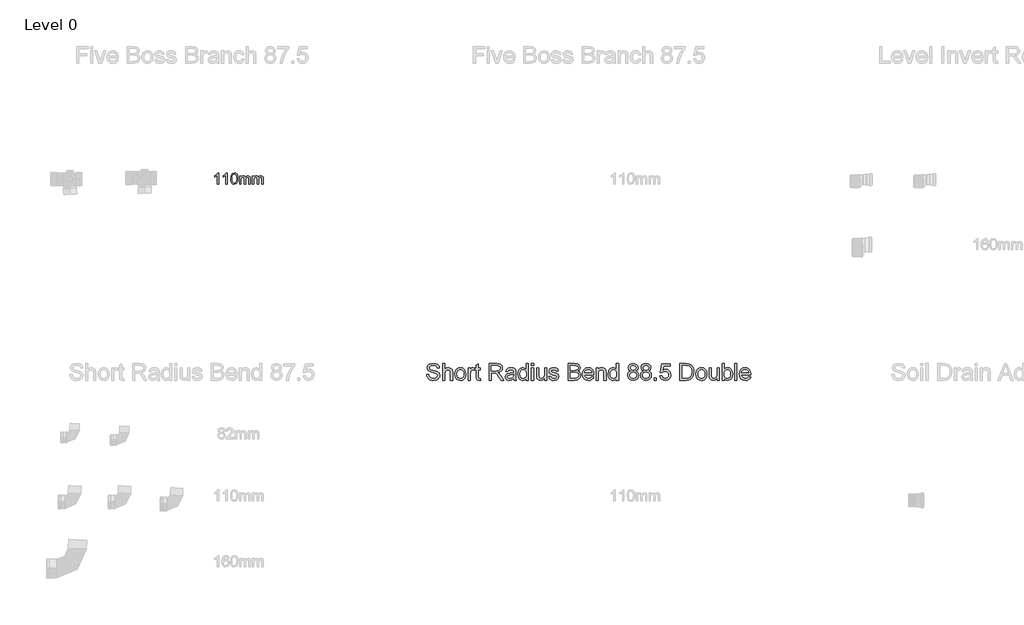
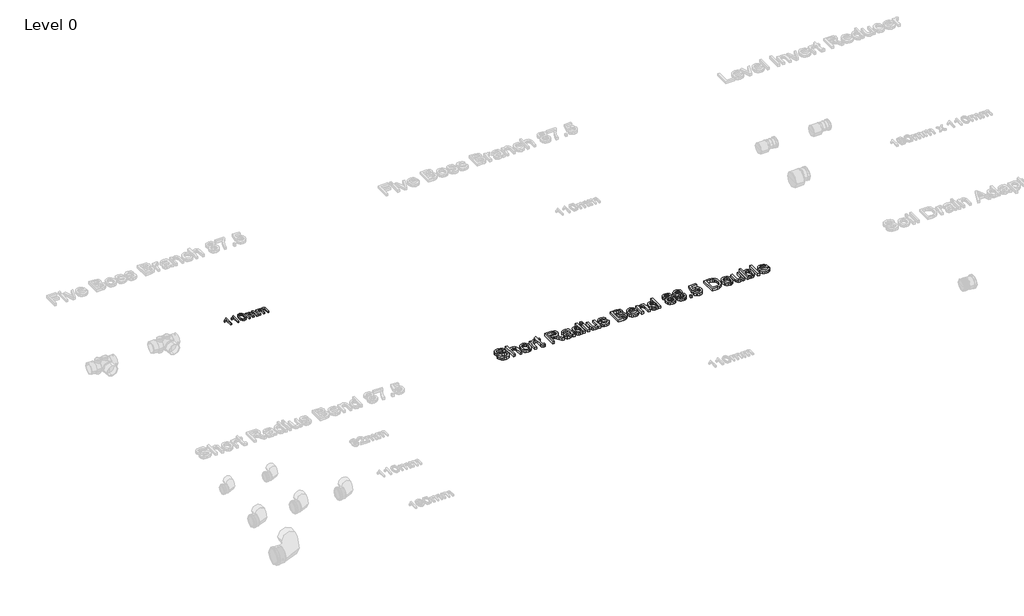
# One storey, part 16 of 23: 2 proxies.
"""IFC4 building model written with IfcOpenShell, lengths in millimetres."""

from ifc_helpers import new_model, si_unit, origin, origin_with_axes, place, context, project, spatial, polyline, outline, extrude, element, save

model = new_model("IFC4")

# Units and contexts
model_context = context("Model", 3, world=origin())
ifc_project = project(units=[si_unit("LENGTHUNIT", "METRE", prefix="MILLI")], contexts=[model_context])

# Site, building, storey
site = spatial("IfcSite", under=ifc_project)
building = spatial("IfcBuilding", under=site)
storey = spatial("IfcBuildingStorey", under=building, Name="Level 0", Elevation=0.0)

# Proxies
placement = place(None, origin())
element("IfcBuildingElementProxy", 1, Name="100mm Arial", ObjectType="100mm Arial", at=placement, inside=storey, context=model_context, shape_type="SweptSolid", body=[
    extrude(outline(polyline([(-3291.7293188, 2637.7167304), (-3304.0370111, 2637.7167304), (-3304.0370111, 2714.4474996), (-3315.6956649, 2706.1422111), (-3328.6523957, 2699.9282688), (-3328.6523957, 2711.5628842), (-3310.6115303, 2723.0773073), (-3299.6620111, 2736.1782688), (-3291.7293188, 2736.1782688), (-3291.7293188, 2637.7167304)])), origin_with_axes(), (0.0, 0.0, 1.0), 15.0),
    extrude(outline(polyline([(-3216.3447034, 2637.7167304), (-3228.6523957, 2637.7167304), (-3228.6523957, 2714.4474996), (-3240.3110495, 2706.1422111), (-3253.2677803, 2699.9282688), (-3253.2677803, 2711.5628842), (-3235.2269149, 2723.0773073), (-3224.2773957, 2736.1782688), (-3216.3447034, 2736.1782688), (-3216.3447034, 2637.7167304)])), origin_with_axes(), (0.0, 0.0, 1.0), 15.0),
    extrude(outline(polyline([(-3187.1139341, 2686.1542304), (-3183.4961457, 2714.4835573), (-3172.7509534, 2730.8176919), (-3154.8062418, 2736.1782688), (-3140.4312418, 2733.0051919), (-3130.5033572, 2723.8585573), (-3124.7341264, 2709.2912496), (-3122.4985495, 2686.1542304), (-3126.0802803, 2657.9450958), (-3136.7894149, 2641.5749035), (-3154.8062418, 2636.1782688), (-3167.5947034, 2638.5220188), (-3177.3062418, 2645.5532688), (-3184.6620111, 2662.2059131), (-3187.1139341, 2686.1542304)]), holes=[polyline([(-3174.8062418, 2686.1782688), (-3173.3639341, 2666.8182929), (-3169.0370111, 2655.613365), (-3162.5947034, 2650.2678121), (-3154.8062418, 2648.4859611), (-3147.0177803, 2650.2738217), (-3140.5754726, 2655.6374035), (-3136.2485495, 2666.848341), (-3134.8062418, 2686.1782688), (-3136.2004726, 2705.1025477), (-3140.3831649, 2716.394615), (-3146.8134534, 2722.0015861), (-3154.9504726, 2723.8705765), (-3162.6547995, 2722.2239419), (-3168.8447034, 2717.2840381), (-3173.3158572, 2705.2888458), (-3174.8062418, 2686.1782688)])]), origin_with_axes(), (0.0, 0.0, 1.0), 15.0),
    extrude(outline(polyline([(-3108.6523957, 2637.7167304), (-3108.6523957, 2710.0244227), (-3096.3447034, 2710.0244227), (-3096.3447034, 2698.1253842), (-3087.8831649, 2707.8729804), (-3075.8398957, 2711.5628842), (-3063.5081649, 2707.800865), (-3056.7293188, 2697.2599996), (-3047.1259534, 2707.9871631), (-3034.9985495, 2711.5628842), (-3025.7467466, 2710.0755044), (-3018.9047995, 2705.613365), (-3014.6770351, 2698.0562736), (-3013.2677803, 2687.2840381), (-3013.2677803, 2637.7167304), (-3025.5754726, 2637.7167304), (-3025.5754726, 2681.9955765), (-3026.7172995, 2692.2720188), (-3030.8519149, 2697.332115), (-3037.8831649, 2699.2551919), (-3049.9865303, 2694.3273073), (-3054.8062418, 2678.5340381), (-3054.8062418, 2637.7167304), (-3067.1139341, 2637.7167304), (-3067.1139341, 2683.3657688), (-3069.9624918, 2695.2888458), (-3079.3014341, 2699.2551919), (-3088.4120111, 2696.6109611), (-3094.4697034, 2688.8705765), (-3096.3447034, 2674.1830765), (-3096.3447034, 2637.7167304), (-3108.6523957, 2637.7167304)])), origin_with_axes(), (0.0, 0.0, 1.0), 15.0),
    extrude(outline(polyline([(-2994.8062418, 2637.7167304), (-2994.8062418, 2710.0244227), (-2982.4985495, 2710.0244227), (-2982.4985495, 2698.1253842), (-2974.0370111, 2707.8729804), (-2961.9937418, 2711.5628842), (-2949.6620111, 2707.800865), (-2942.8831649, 2697.2599996), (-2933.2797995, 2707.9871631), (-2921.1523957, 2711.5628842), (-2911.9005928, 2710.0755044), (-2905.0586457, 2705.613365), (-2900.8308813, 2698.0562736), (-2899.4216264, 2687.2840381), (-2899.4216264, 2637.7167304), (-2911.7293188, 2637.7167304), (-2911.7293188, 2681.9955765), (-2912.8711457, 2692.2720188), (-2917.0057611, 2697.332115), (-2924.0370111, 2699.2551919), (-2936.1403764, 2694.3273073), (-2940.960088, 2678.5340381), (-2940.960088, 2637.7167304), (-2953.2677803, 2637.7167304), (-2953.2677803, 2683.3657688), (-2956.116338, 2695.2888458), (-2965.4552803, 2699.2551919), (-2974.5658572, 2696.6109611), (-2980.6235495, 2688.8705765), (-2982.4985495, 2674.1830765), (-2982.4985495, 2637.7167304), (-2994.8062418, 2637.7167304)])), origin_with_axes(), (0.0, 0.0, 1.0), 15.0),
])
element("IfcBuildingElementProxy", 2, Name="150mm Arial", ObjectType="150mm Arial", at=placement, inside=storey, context=model_context, shape_type="SweptSolid", body=[
    extrude(outline(polyline([(-1457.5279897, 955.9837527), (-1439.0664512, 955.9837527), (-1433.116932, 937.5041854), (-1418.585682, 925.8214931), (-1396.4462589, 921.3683681), (-1377.1553935, 924.7397623), (-1364.6974608, 934.0065892), (-1360.6049127, 946.3924065), (-1363.6698166, 957.9128392), (-1376.2178935, 966.2962527), (-1403.0989031, 973.3455315), (-1432.0352012, 982.4500988), (-1447.7383262, 996.1880796), (-1452.912605, 1014.541445), (-1451.3125449, 1025.3542455), (-1446.5123647, 1035.4368777), (-1438.6382661, 1043.9825508), (-1427.8164512, 1050.1844738), (-1400.4486627, 1055.2145219), (-1371.241932, 1049.9500988), (-1360.0460185, 1043.4506998), (-1351.7707781, 1034.4813488), (-1346.5333983, 1023.6009402), (-1344.4510666, 1011.3683681), (-1362.912605, 1011.3683681), (-1366.3020281, 1022.3839931), (-1373.3693358, 1030.3347142), (-1384.4120041, 1035.1484161), (-1399.7275089, 1036.7529835), (-1415.4035906, 1035.166445), (-1426.1577973, 1030.4068296), (-1432.3777493, 1023.4026229), (-1434.4510666, 1015.0823104), (-1432.9817156, 1007.9879594), (-1428.5736627, 1002.2818296), (-1398.429432, 991.9693296), (-1365.7611627, 982.7025027), (-1355.2368238, 976.0047863), (-1347.8945762, 967.7385604), (-1342.1433743, 946.8611565), (-1343.7975209, 935.4804474), (-1348.7599608, 924.77582), (-1356.8278695, 915.5630796), (-1367.7984223, 908.6580315), (-1395.725105, 902.9068296), (-1413.8125449, 904.4573104), (-1428.6998647, 909.1087527), (-1440.5583382, 916.8791854), (-1449.5592397, 927.7866373), (-1455.3374848, 941.0738969), (-1457.5279897, 955.9837527)])), origin_with_axes(), (0.0, 0.0, 1.0), 25.0),
    extrude(outline(polyline([(-1316.7587589, 905.2145219), (-1316.7587589, 1052.9068296), (-1298.2972204, 1052.9068296), (-1298.2972204, 998.603945), (-1283.9011868, 1011.6388008), (-1266.1698166, 1015.9837527), (-1245.4366435, 1011.2421661), (-1232.8525089, 998.135195), (-1229.0664512, 973.8683681), (-1229.0664512, 905.2145219), (-1247.5279897, 905.2145219), (-1247.5279897, 971.9573104), (-1248.9973406, 983.5138008), (-1253.4053935, 991.4284642), (-1260.5087589, 995.9987767), (-1270.0640473, 997.5222142), (-1285.1902493, 993.4116373), (-1295.2864031, 982.2698104), (-1298.2972204, 962.8347142), (-1298.2972204, 905.2145219), (-1316.7587589, 905.2145219)])), origin_with_axes(), (0.0, 0.0, 1.0), 25.0),
    extrude(outline(polyline([(-1208.2972204, 959.4452911), (-1204.303831, 985.5961325), (-1192.3236627, 1003.9765411), (-1177.52198, 1012.9819498), (-1159.7996243, 1015.9837527), (-1140.405093, 1012.3284041), (-1124.913807, 1001.3623585), (-1114.7590594, 983.9510003), (-1111.3741435, 960.9597142), (-1112.8705377, 942.3088729), (-1117.3597204, 928.1111565), (-1124.7109824, 917.4786445), (-1134.7936147, 909.5234161), (-1146.7692757, 904.5609762), (-1159.7996243, 902.9068296), (-1179.4285305, 906.5486565), (-1194.9017877, 917.4741373), (-1204.9483622, 935.2505796), (-1208.2972204, 959.4452911)]), holes=[polyline([(-1189.835682, 959.4813488), (-1187.6992637, 942.7731157), (-1181.2900089, 930.86957), (-1171.6445762, 923.7436686), (-1159.7996243, 921.3683681), (-1148.0087589, 923.7571902), (-1138.381355, 930.9236565), (-1131.9721002, 942.9849546), (-1129.835682, 960.0582719), (-1131.9856219, 976.2797262), (-1138.4354416, 988.0210123), (-1148.0763671, 995.1469137), (-1159.7996243, 997.5222142), (-1171.6445762, 995.1559282), (-1181.2900089, 988.05707), (-1187.6992637, 976.1805676), (-1189.835682, 959.4813488)])]), origin_with_axes(), (0.0, 0.0, 1.0), 25.0),
    extrude(outline(polyline([(-1090.6049127, 905.2145219), (-1090.6049127, 1013.6760604), (-1074.4510666, 1013.6760604), (-1074.4510666, 997.6303873), (-1062.9847204, 1012.4140411), (-1051.4462589, 1015.9837527), (-1032.912605, 1010.2866373), (-1039.0784704, 993.7361565), (-1052.0592397, 997.5222142), (-1062.4979416, 993.8803873), (-1069.1505858, 983.7842335), (-1072.1433743, 962.2217335), (-1072.1433743, 905.2145219), (-1090.6049127, 905.2145219)])), origin_with_axes(), (0.0, 0.0, 1.0), 25.0),
    extrude(outline(polyline([(-982.1433743, 920.6111565), (-979.835682, 904.6736565), (-993.6457781, 902.9068296), (-1009.1145281, 905.9717335), (-1016.8308743, 914.0125988), (-1019.0664512, 934.9621181), (-1019.0664512, 995.2145219), (-1032.912605, 995.2145219), (-1032.912605, 1013.6760604), (-1019.0664512, 1013.6760604), (-1019.0664512, 1040.0342335), (-1000.6049127, 1050.8875988), (-1000.6049127, 1013.6760604), (-982.1433743, 1013.6760604), (-982.1433743, 995.2145219), (-1000.6049127, 995.2145219), (-1000.6049127, 935.5029835), (-999.631355, 925.9837527), (-996.476307, 922.6123585), (-990.1842397, 921.3683681), (-982.1433743, 920.6111565)])), origin_with_axes(), (0.0, 0.0, 1.0), 25.0),
    extrude(outline(polyline([(-903.6818358, 905.2145219), (-903.6818358, 1052.9068296), (-840.0400089, 1052.9068296), (-810.49073, 1048.9224546), (-801.3951772, 1043.4056277), (-794.3368839, 1034.8238969), (-789.8071363, 1024.1823705), (-788.2972204, 1012.4861565), (-790.7987228, 997.9368777), (-798.30323, 985.8755796), (-811.0361026, 977.0324306), (-829.2227012, 972.1375988), (-818.7299127, 964.2409642), (-803.7659704, 945.2385604), (-779.1385666, 905.2145219), (-800.5928935, 905.2145219), (-819.8116435, 935.8275027), (-833.693855, 956.0919258), (-843.4474608, 965.6652431), (-852.2275089, 969.1808681), (-862.9366435, 969.8299065), (-885.2202973, 969.8299065), (-885.2202973, 905.2145219), (-903.6818358, 905.2145219)]), holes=[polyline([(-885.2202973, 988.291445), (-843.898182, 988.291445), (-822.8224608, 990.9056277), (-810.851307, 999.2710123), (-806.7587589, 1011.8010604), (-808.7103815, 1020.806469), (-814.5652493, 1028.0630796), (-824.6388671, 1032.8497383), (-839.2467397, 1034.4452911), (-885.2202973, 1034.4452911), (-885.2202973, 988.291445)])]), origin_with_axes(), (0.0, 0.0, 1.0), 25.0),
    extrude(outline(polyline([(-689.0664512, 919.0606758), (-706.9690954, 906.5486565), (-726.7467397, 902.9068296), (-742.1749247, 905.0973344), (-753.5556339, 911.6688488), (-760.5733622, 921.6478152), (-762.912605, 934.0606758), (-759.3789512, 948.6640411), (-750.0940954, 959.2650027), (-737.1674127, 965.322695), (-721.193855, 968.0991373), (-689.1746243, 974.4452911), (-689.0664512, 978.5558681), (-690.3374848, 986.7950508), (-694.1505858, 992.1856758), (-702.67823, 996.1880796), (-714.5592397, 997.5222142), (-733.2371243, 993.9705315), (-742.1433743, 981.3683681), (-760.6049127, 983.6760604), (-752.6181339, 1001.7049065), (-736.5364031, 1012.2698104), (-712.179432, 1015.9837527), (-689.8056339, 1012.7025027), (-677.1674127, 1004.46332), (-671.506355, 991.9332719), (-670.6049127, 975.7794258), (-670.6049127, 952.8106758), (-669.6674127, 920.7373585), (-665.9895281, 905.2145219), (-684.4510666, 905.2145219), (-689.0664512, 919.0606758)]), holes=[polyline([(-689.0664512, 955.9837527), (-718.850105, 950.322695), (-734.7335185, 947.3299065), (-741.9270281, 942.4621181), (-744.4510666, 935.3587527), (-738.9522685, 925.3707719), (-722.8164512, 921.3683681), (-704.1385666, 925.7854354), (-692.0952973, 936.4765411), (-689.1746243, 950.7553873), (-689.0664512, 955.9837527)])]), origin_with_axes(), (0.0, 0.0, 1.0), 25.0),
    extrude(outline(polyline([(-578.2972204, 905.2145219), (-578.2972204, 922.6303873), (-590.5117637, 907.837719), (-607.3957781, 902.9068296), (-619.3308743, 904.6916854), (-630.256355, 910.0462527), (-639.5051531, 918.596433), (-646.4102012, 929.9681277), (-650.710081, 943.7016012), (-652.1433743, 959.3371181), (-646.8609223, 988.7241373), (-640.2623647, 1000.3797863), (-631.0315954, 1008.9525027), (-619.8672324, 1014.2259402), (-607.4678935, 1015.9837527), (-590.4486627, 1010.9537046), (-578.2972204, 997.8827911), (-578.2972204, 1052.9068296), (-559.835682, 1052.9068296), (-559.835682, 905.2145219), (-578.2972204, 905.2145219)]), holes=[polyline([(-633.6818358, 959.4092335), (-631.5995041, 942.7100147), (-625.3525089, 930.8335123), (-616.2749848, 923.7346541), (-605.7010666, 921.3683681), (-595.1316555, 923.6264811), (-586.2839993, 930.40082), (-580.2939151, 941.8175868), (-578.2972204, 958.0029835), (-580.3299728, 975.698296), (-586.42823, 987.9669258), (-595.5012469, 995.1333921), (-606.4582781, 997.5222142), (-617.1403695, 995.2280436), (-625.8933743, 988.3455315), (-631.7347204, 976.5231157), (-633.6818358, 959.4092335)])]), origin_with_axes(), (0.0, 0.0, 1.0), 25.0),
    extrude(outline(polyline([(-532.1433743, 1034.4452911), (-532.1433743, 1052.9068296), (-513.6818358, 1052.9068296), (-513.6818358, 1034.4452911), (-532.1433743, 1034.4452911)])), origin_with_axes(), (0.0, 0.0, 1.0), 25.0),
    extrude(outline(polyline([(-532.1433743, 905.2145219), (-532.1433743, 1013.6760604), (-513.6818358, 1013.6760604), (-513.6818358, 905.2145219), (-532.1433743, 905.2145219)])), origin_with_axes(), (0.0, 0.0, 1.0), 25.0),
    extrude(outline(polyline([(-416.7587589, 905.2145219), (-416.7587589, 923.8563488), (-431.2178935, 908.1442094), (-450.0760666, 902.9068296), (-467.4378454, 906.5847142), (-479.4089993, 915.8154835), (-484.9077973, 929.4092335), (-485.9895281, 946.572695), (-485.9895281, 1013.6760604), (-467.5279897, 1013.6760604), (-467.5279897, 955.2625988), (-466.4102012, 936.4404835), (-459.1085185, 925.3888008), (-445.3525089, 921.3683681), (-429.9378454, 925.478945), (-419.7515473, 936.6748585), (-416.7587589, 957.2457719), (-416.7587589, 1013.6760604), (-398.2972204, 1013.6760604), (-398.2972204, 905.2145219), (-416.7587589, 905.2145219)])), origin_with_axes(), (0.0, 0.0, 1.0), 25.0),
    extrude(outline(polyline([(-379.835682, 937.5222142), (-361.3741435, 939.8299065), (-358.4624848, 931.9332719), (-352.8284704, 926.1279835), (-333.2491435, 921.3683681), (-314.4270281, 925.7313488), (-308.2972204, 935.9717335), (-314.4630858, 944.2650027), (-333.4654897, 949.5294258), (-361.2659704, 958.5618777), (-373.3993839, 969.1087527), (-377.5279897, 984.0005796), (-374.210682, 997.7565892), (-365.1602012, 1008.2674065), (-353.4234223, 1013.7301469), (-337.5400089, 1015.9837527), (-315.0760666, 1012.3599546), (-300.7972204, 1002.5522623), (-294.4510666, 985.9837527), (-312.912605, 983.6760604), (-319.8537108, 993.8623585), (-336.0977012, 997.5222142), (-353.7659704, 994.0246181), (-359.0664512, 985.8755796), (-356.866932, 980.5029835), (-349.9799127, 976.4284642), (-334.0784704, 972.4981758), (-306.9811147, 963.8082719), (-294.39698, 953.9645219), (-289.835682, 937.9188488), (-295.1902493, 920.2505796), (-310.6409704, 907.43207), (-333.5015473, 902.9068296), (-352.116331, 905.08832), (-365.7010666, 911.6327911), (-374.7695762, 922.4681277), (-379.835682, 937.5222142)])), origin_with_axes(), (0.0, 0.0, 1.0), 25.0),
    extrude(outline(polyline([(-209.0664512, 905.2145219), (-209.0664512, 1052.9068296), (-152.7082781, 1052.9068296), (-125.1061147, 1048.5618777), (-115.8302733, 1043.049558), (-108.8080377, 1035.2025027), (-102.912605, 1016.3082719), (-107.8705377, 999.0546661), (-122.8525089, 985.9837527), (-112.3912709, 980.5210123), (-104.6614031, 972.2097142), (-99.8882661, 961.5997383), (-98.2972204, 949.2409642), (-102.6421723, 929.3912046), (-113.4053935, 915.2565892), (-129.4690954, 907.7565892), (-153.1409704, 905.2145219), (-209.0664512, 905.2145219)]), holes=[polyline([(-190.6049127, 923.6760604), (-152.7443358, 923.6760604), (-139.0424127, 924.3972142), (-127.4498647, 928.4176469), (-119.7695762, 936.6207719), (-116.7587589, 949.0606758), (-120.2924127, 963.4116373), (-131.74073, 971.9753392), (-154.5472204, 974.4452911), (-190.6049127, 974.4452911), (-190.6049127, 923.6760604)]), polyline([(-190.6049127, 992.9068296), (-156.8909704, 992.9068296), (-137.2034704, 994.4933681), (-125.3585185, 1001.3263008), (-121.3741435, 1013.3515411), (-125.0880858, 1025.3948104), (-135.725105, 1032.5162046), (-159.4510666, 1034.4452911), (-190.6049127, 1034.4452911), (-190.6049127, 992.9068296)])]), origin_with_axes(), (0.0, 0.0, 1.0), 25.0),
    extrude(outline(polyline([(0.7172027, 937.5222142), (18.8181642, 935.2145219), (12.2962291, 921.5756998), (1.8890777, 911.3803873), (-12.1689151, 905.025219), (-29.6433743, 902.9068296), (-51.3050329, 906.5621782), (-67.9727012, 917.5282238), (-78.600706, 935.0928272), (-82.1433743, 958.5438488), (-78.5646483, 982.7836325), (-67.8284704, 1000.9116373), (-51.3861627, 1012.2157238), (-30.6890473, 1015.9837527), (-10.6364632, 1012.2247383), (5.3866738, 1000.947695), (15.8929839, 982.8557479), (19.3950873, 958.6520219), (19.2869142, 953.6760604), (-63.6818358, 953.6760604), (-60.4862228, 939.8569498), (-53.0628454, 929.697695), (-42.3492036, 923.4506998), (-29.2827973, 921.3683681), (-11.1818358, 925.2265411), (0.7172027, 937.5222142)]), holes=[polyline([(-63.6818358, 972.1375988), (0.9335488, 972.1375988), (-1.5634464, 981.8912046), (-6.4582781, 988.8683681), (-17.2214993, 995.3587527), (-30.7611627, 997.5222142), (-43.2055738, 995.7959522), (-53.4955377, 990.6171661), (-60.6484824, 982.5447503), (-63.6818358, 972.1375988)])]), origin_with_axes(), (0.0, 0.0, 1.0), 25.0),
    extrude(outline(polyline([(37.8566257, 905.2145219), (37.8566257, 1013.6760604), (56.3181642, 1013.6760604), (56.3181642, 998.5318296), (70.4347507, 1011.6207719), (89.7075873, 1015.9837527), (107.1414815, 1012.4681277), (119.04052, 1003.2373585), (124.5753757, 989.6616373), (125.5489334, 971.8130796), (125.5489334, 905.2145219), (107.087395, 905.2145219), (107.087395, 969.3250988), (104.9599911, 985.6592335), (97.4419623, 994.2950508), (84.7676834, 997.5222142), (73.9548829, 995.7103152), (64.7376353, 990.2746181), (58.423032, 979.7728152), (56.3181642, 962.7625988), (56.3181642, 905.2145219), (37.8566257, 905.2145219)])), origin_with_axes(), (0.0, 0.0, 1.0), 25.0),
    extrude(outline(polyline([(217.8566257, 905.2145219), (217.8566257, 922.6303873), (205.6420825, 907.837719), (188.758068, 902.9068296), (176.8229719, 904.6916854), (165.8974911, 910.0462527), (156.648693, 918.596433), (149.743645, 929.9681277), (145.4437652, 943.7016012), (144.0104719, 959.3371181), (149.2929238, 988.7241373), (155.8914815, 1000.3797863), (165.1222507, 1008.9525027), (176.2866137, 1014.2259402), (188.6859527, 1015.9837527), (205.7051834, 1010.9537046), (217.8566257, 997.8827911), (217.8566257, 1052.9068296), (236.3181642, 1052.9068296), (236.3181642, 905.2145219), (217.8566257, 905.2145219)]), holes=[polyline([(162.4720103, 959.4092335), (164.5543421, 942.7100147), (170.8013373, 930.8335123), (179.8788613, 923.7346541), (190.4527796, 921.3683681), (201.0221906, 923.6264811), (209.8698469, 930.40082), (215.859931, 941.8175868), (217.8566257, 958.0029835), (215.8238733, 975.698296), (209.7256161, 987.9669258), (200.6525993, 995.1333921), (189.695568, 997.5222142), (179.0134767, 995.2280436), (170.2604719, 988.3455315), (164.4191257, 976.5231157), (162.4720103, 959.4092335)])]), origin_with_axes(), (0.0, 0.0, 1.0), 25.0),
    extrude(outline(polyline([(343.9864334, 986.5606758), (327.16552, 998.0270219), (321.7027796, 1015.8755796), (324.6775392, 1030.307671), (333.601818, 1042.2337527), (347.4750152, 1050.2385604), (365.2965296, 1052.9068296), (383.2262171, 1050.1754594), (397.2797027, 1041.9813488), (406.3662411, 1029.8659642), (409.3950873, 1015.3707719), (404.0044623, 997.9729354), (387.6522988, 986.5606758), (399.0149791, 980.705808), (407.2857123, 972.0835123), (412.329282, 961.1084522), (414.0104719, 948.1952911), (410.6751353, 930.5450508), (400.6691257, 915.9597142), (385.2184046, 906.1700508), (365.5489334, 902.9068296), (345.8794623, 906.1835724), (330.4287411, 916.0138008), (320.4227315, 930.7388609), (317.087395, 948.7000988), (318.836193, 962.1135604), (324.0825873, 973.1472142), (332.556145, 981.4224546), (343.9864334, 986.5606758)]), holes=[polyline([(335.5489334, 949.3491373), (338.6318661, 935.4488969), (349.539318, 925.0462527), (365.6931642, 921.3683681), (378.25927, 923.3019618), (387.6883565, 929.1027431), (393.5837892, 937.8872984), (395.5489334, 948.7722142), (393.5206882, 959.8419258), (387.4359527, 968.8202911), (377.79052, 974.7698104), (365.0801834, 976.7529835), (352.6898589, 974.7968536), (343.3554238, 968.9284642), (337.500556, 960.1213729), (335.5489334, 949.3491373)]), polyline([(340.164318, 1015.3347142), (341.8004358, 1007.27582), (346.7087892, 1000.8395219), (354.7451474, 996.6207719), (365.7652796, 995.2145219), (376.5285007, 996.6117575), (384.4431642, 1000.8034642), (389.3109527, 1007.0234161), (390.9335488, 1014.5053873), (389.2568661, 1022.2713128), (384.226818, 1028.6940892), (376.2039815, 1033.0074907), (365.5489334, 1034.4452911), (354.8262772, 1033.0390411), (346.8169623, 1028.8202911), (341.8274791, 1022.6363969), (340.164318, 1015.3347142)])]), origin_with_axes(), (0.0, 0.0, 1.0), 25.0),
    extrude(outline(polyline([(457.0633565, 986.5606758), (440.242443, 998.0270219), (434.7797027, 1015.8755796), (437.7544623, 1030.307671), (446.6787411, 1042.2337527), (460.5519382, 1050.2385604), (478.3734527, 1052.9068296), (496.3031402, 1050.1754594), (510.3566257, 1041.9813488), (519.4431642, 1029.8659642), (522.4720103, 1015.3707719), (517.0813853, 997.9729354), (500.7292219, 986.5606758), (512.0919022, 980.705808), (520.3626353, 972.0835123), (525.4062051, 961.1084522), (527.087395, 948.1952911), (523.7520584, 930.5450508), (513.7460488, 915.9597142), (498.2953277, 906.1700508), (478.6258565, 902.9068296), (458.9563853, 906.1835724), (443.5056642, 916.0138008), (433.4996546, 930.7388609), (430.164318, 948.7000988), (431.9131161, 962.1135604), (437.1595103, 973.1472142), (445.633068, 981.4224546), (457.0633565, 986.5606758)]), holes=[polyline([(453.2412411, 1015.3347142), (454.8773589, 1007.27582), (459.7857123, 1000.8395219), (467.8220704, 996.6207719), (478.8422027, 995.2145219), (489.6054238, 996.6117575), (497.5200873, 1000.8034642), (502.3878757, 1007.0234161), (504.0104719, 1014.5053873), (502.3337892, 1022.2713128), (497.3037411, 1028.6940892), (489.2809046, 1033.0074907), (478.6258565, 1034.4452911), (467.9032003, 1033.0390411), (459.8938853, 1028.8202911), (454.9044022, 1022.6363969), (453.2412411, 1015.3347142)]), polyline([(448.6258565, 949.3491373), (451.7087892, 935.4488969), (462.6162411, 925.0462527), (478.7700873, 921.3683681), (491.336193, 923.3019618), (500.7652796, 929.1027431), (506.6607123, 937.8872984), (508.6258565, 948.7722142), (506.5976113, 959.8419258), (500.5128757, 968.8202911), (490.867443, 974.7698104), (478.1571065, 976.7529835), (465.766782, 974.7968536), (456.4323469, 968.9284642), (450.5774791, 960.1213729), (448.6258565, 949.3491373)])]), origin_with_axes(), (0.0, 0.0, 1.0), 25.0),
    extrude(outline(polyline([(552.4720103, 905.2145219), (552.4720103, 923.6760604), (570.9335488, 923.6760604), (570.9335488, 905.2145219), (552.4720103, 905.2145219)])), origin_with_axes(), (0.0, 0.0, 1.0), 25.0),
    extrude(outline(polyline([(600.9335488, 944.4452911), (619.3950873, 946.7529835), (622.7845103, 935.6697503), (628.6979719, 927.7325508), (637.1084286, 922.9594137), (647.9888373, 921.3683681), (661.2220103, 923.5814089), (671.1378757, 930.2205315), (677.3307844, 940.5195099), (679.3950873, 953.7121181), (677.4614935, 966.1339931), (671.6607123, 975.635195), (661.9476714, 981.665844), (648.2772988, 983.6760604), (632.0693661, 980.4669258), (621.7027796, 972.1375988), (603.2412411, 974.4452911), (619.3950873, 1050.5991373), (690.9335488, 1050.5991373), (690.9335488, 1032.1375988), (634.3229719, 1032.1375988), (626.4263373, 991.4645219), (639.6144382, 999.4693296), (653.4335488, 1002.1375988), (670.6826474, 998.8293056), (685.0020584, 988.9044258), (694.6429839, 973.7782238), (697.8566257, 954.8659642), (694.9629959, 936.4044258), (686.2821065, 920.6111565), (669.6595103, 907.3329113), (647.9167219, 902.9068296), (629.7842099, 905.7508801), (615.3385969, 914.2830315), (605.4362531, 927.5116974), (600.9335488, 944.4452911)])), origin_with_axes(), (0.0, 0.0, 1.0), 25.0),
    extrude(outline(polyline([(778.6258565, 905.2145219), (778.6258565, 1052.9068296), (829.5753757, 1052.9068296), (855.9335488, 1050.7794258), (877.6402796, 1040.2145219), (887.8536209, 1028.9645219), (895.1282603, 1014.9741373), (899.4822267, 998.5138008), (900.9335488, 979.853945), (897.0032603, 950.0522623), (886.9071065, 928.5438488), (873.4215296, 915.1484161), (855.7712892, 907.7385604), (832.0272988, 905.2145219), (778.6258565, 905.2145219)]), holes=[polyline([(797.087395, 923.6760604), (829.7556642, 923.6760604), (853.5176834, 926.3443296), (867.2196065, 933.8803873), (878.4515777, 952.2157238), (882.4720103, 980.1424065), (880.5023589, 1000.2625988), (874.5934046, 1015.1183681), (865.8629358, 1025.322695), (855.4287411, 1031.4885604), (829.2508565, 1034.4452911), (797.087395, 1034.4452911), (797.087395, 923.6760604)])]), origin_with_axes(), (0.0, 0.0, 1.0), 25.0),
    extrude(outline(polyline([(919.3950873, 959.4452911), (923.3884767, 985.5961325), (935.368645, 1003.9765411), (950.1703277, 1012.9819498), (967.8926834, 1015.9837527), (987.2872147, 1012.3284041), (1002.7785007, 1001.3623585), (1012.9332483, 983.9510003), (1016.3181642, 960.9597142), (1014.82177, 942.3088729), (1010.3325873, 928.1111565), (1002.9813253, 917.4786445), (992.898693, 909.5234161), (980.923032, 904.5609762), (967.8926834, 902.9068296), (948.2637772, 906.5486565), (932.79052, 917.4741373), (922.7439454, 935.2505796), (919.3950873, 959.4452911)]), holes=[polyline([(937.8566257, 959.4813488), (939.993044, 942.7731157), (946.4022988, 930.86957), (956.0477315, 923.7436686), (967.8926834, 921.3683681), (979.6835488, 923.7571902), (989.3109527, 930.9236565), (995.7202075, 942.9849546), (997.8566257, 960.0582719), (995.7066858, 976.2797262), (989.2568661, 988.0210123), (979.6159406, 995.1469137), (967.8926834, 997.5222142), (956.0477315, 995.1559282), (946.4022988, 988.05707), (939.993044, 976.1805676), (937.8566257, 959.4813488)])]), origin_with_axes(), (0.0, 0.0, 1.0), 25.0),
    extrude(outline(polyline([(1106.3181642, 905.2145219), (1106.3181642, 923.8563488), (1091.8590296, 908.1442094), (1073.0008565, 902.9068296), (1055.6390777, 906.5847142), (1043.6679238, 915.8154835), (1038.1691257, 929.4092335), (1037.087395, 946.572695), (1037.087395, 1013.6760604), (1055.5489334, 1013.6760604), (1055.5489334, 955.2625988), (1056.6667219, 936.4404835), (1063.9684046, 925.3888008), (1077.7244142, 921.3683681), (1093.1390777, 925.478945), (1103.3253757, 936.6748585), (1106.3181642, 957.2457719), (1106.3181642, 1013.6760604), (1124.7797027, 1013.6760604), (1124.7797027, 905.2145219), (1106.3181642, 905.2145219)])), origin_with_axes(), (0.0, 0.0, 1.0), 25.0),
    extrude(outline(polyline([(1168.6258565, 905.2145219), (1150.164318, 905.2145219), (1150.164318, 1052.9068296), (1168.6258565, 1052.9068296), (1168.6258565, 998.135195), (1181.5525392, 1011.5216133), (1197.6162411, 1015.9837527), (1216.1138373, 1011.96332), (1230.4647988, 1000.6592335), (1239.2809046, 983.0811085), (1242.4720103, 961.0678873), (1239.1682243, 936.4224546), (1229.2568661, 918.0871181), (1214.7120945, 906.7019017), (1197.508068, 902.9068296), (1181.0928036, 907.8016613), (1168.6258565, 922.4861565), (1168.6258565, 905.2145219)]), holes=[polyline([(1168.6258565, 960.2025027), (1169.8878757, 944.8058681), (1173.6739334, 934.385195), (1183.3464094, 924.6225748), (1195.9215296, 921.3683681), (1206.5765777, 923.7662046), (1215.681145, 930.9597142), (1221.9281402, 942.9038248), (1224.0104719, 959.5534642), (1222.0137772, 976.4464931), (1216.023693, 988.2553873), (1207.2030801, 995.2055075), (1196.7147988, 997.5222142), (1186.0597507, 995.1243777), (1176.9551834, 987.9308681), (1170.7081882, 976.2031036), (1168.6258565, 960.2025027)])]), origin_with_axes(), (0.0, 0.0, 1.0), 25.0),
    extrude(outline(polyline([(1263.2412411, 905.2145219), (1263.2412411, 1052.9068296), (1281.7027796, 1052.9068296), (1281.7027796, 905.2145219), (1263.2412411, 905.2145219)])), origin_with_axes(), (0.0, 0.0, 1.0), 25.0),
    extrude(outline(polyline([(1385.3325873, 937.5222142), (1403.4335488, 935.2145219), (1396.9116137, 921.5756998), (1386.5044623, 911.3803873), (1372.4464695, 905.025219), (1354.9720103, 902.9068296), (1333.3103517, 906.5621782), (1316.6426834, 917.5282238), (1306.0146786, 935.0928272), (1302.4720103, 958.5438488), (1306.0507363, 982.7836325), (1316.7869142, 1000.9116373), (1333.2292219, 1012.2157238), (1353.9263373, 1015.9837527), (1373.9789214, 1012.2247383), (1390.0020584, 1000.947695), (1400.5083685, 982.8557479), (1404.0104719, 958.6520219), (1403.9022988, 953.6760604), (1320.9335488, 953.6760604), (1324.1291618, 939.8569498), (1331.5525392, 929.697695), (1342.266181, 923.4506998), (1355.3325873, 921.3683681), (1373.4335488, 925.2265411), (1385.3325873, 937.5222142)]), holes=[polyline([(1320.9335488, 972.1375988), (1385.5489334, 972.1375988), (1383.0519382, 981.8912046), (1378.1571065, 988.8683681), (1367.3938853, 995.3587527), (1353.8542219, 997.5222142), (1341.4098108, 995.7959522), (1331.1198469, 990.6171661), (1323.9669022, 982.5447503), (1320.9335488, 972.1375988)])]), origin_with_axes(), (0.0, 0.0, 1.0), 25.0),
])

save(model, "model.ifc")
